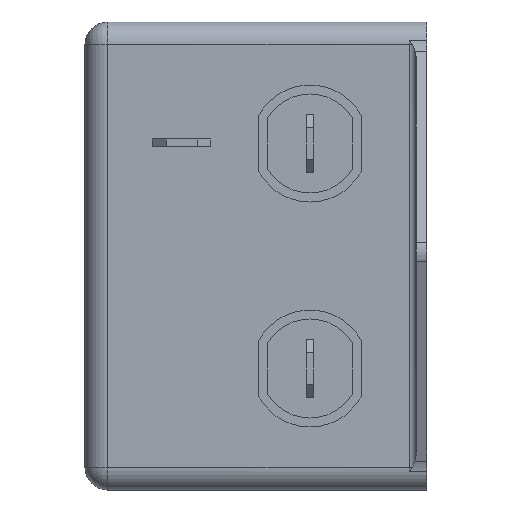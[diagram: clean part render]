
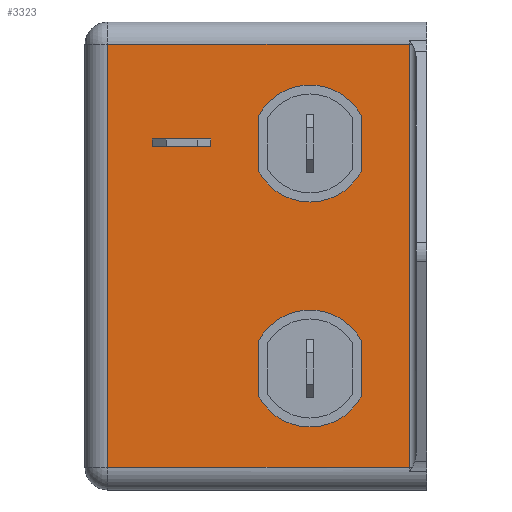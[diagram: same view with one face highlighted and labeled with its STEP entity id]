
A CAD part, left-side view. The second image highlights one B-rep face of the part: STEP entity #3323.
In plain terms, the highlighted planar face has unit normal (-1, 0, 0).
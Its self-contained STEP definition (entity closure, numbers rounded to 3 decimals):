
#63 = VECTOR ( 'NONE', #280, 1000. ) ;
#80 = VERTEX_POINT ( 'NONE', #2714 ) ;
#95 = CARTESIAN_POINT ( 'NONE',  ( -31.5, 18.75, -9.469 ) ) ;
#114 = CARTESIAN_POINT ( 'NONE',  ( -31.5, 24., 13. ) ) ;
#127 = AXIS2_PLACEMENT_3D ( 'NONE', #4027, #2755, #3404 ) ;
#211 = VERTEX_POINT ( 'NONE', #1293 ) ;
#228 = VECTOR ( 'NONE', #2777, 1000. ) ;
#230 = VERTEX_POINT ( 'NONE', #2356 ) ;
#259 = DIRECTION ( 'NONE',  ( -1., 0., 0. ) ) ;
#268 = PLANE ( 'NONE',  #3071 ) ;
#270 = VERTEX_POINT ( 'NONE', #3165 ) ;
#272 = LINE ( 'NONE', #3309, #4073 ) ;
#280 = DIRECTION ( 'NONE',  ( 0., -1., 0. ) ) ;
#333 = VERTEX_POINT ( 'NONE', #114 ) ;
#345 = EDGE_CURVE ( 'NONE', #3749, #80, #3128, .T. ) ;
#362 = CARTESIAN_POINT ( 'NONE',  ( -31.5, 13., -12.5 ) ) ;
#364 = VERTEX_POINT ( 'NONE', #1796 ) ;
#366 = LINE ( 'NONE', #1007, #3283 ) ;
#368 = DIRECTION ( 'NONE',  ( 0., -1., 0. ) ) ;
#381 = AXIS2_PLACEMENT_3D ( 'NONE', #4180, #2095, #1133 ) ;
#431 = DIRECTION ( 'NONE',  ( 0., 1., 0. ) ) ;
#452 = VECTOR ( 'NONE', #1237, 1000. ) ;
#457 = ORIENTED_EDGE ( 'NONE', *, *, #3909, .F. ) ;
#519 = CIRCLE ( 'NONE', #1449, 6.5 ) ;
#530 = LINE ( 'NONE', #1876, #452 ) ;
#531 = EDGE_CURVE ( 'NONE', #4099, #904, #272, .T. ) ;
#548 = EDGE_CURVE ( 'NONE', #1761, #1819, #366, .T. ) ;
#561 = DIRECTION ( 'NONE',  ( -1., 0., 0. ) ) ;
#605 = AXIS2_PLACEMENT_3D ( 'NONE', #1701, #259, #4390 ) ;
#624 = DIRECTION ( 'NONE',  ( 1., 0., 0. ) ) ;
#645 = ORIENTED_EDGE ( 'NONE', *, *, #2315, .T. ) ;
#768 = CARTESIAN_POINT ( 'NONE',  ( -31.5, 18.75, 15.531 ) ) ;
#821 = DIRECTION ( 'NONE',  ( 0., 0., 1. ) ) ;
#839 = AXIS2_PLACEMENT_3D ( 'NONE', #2570, #561, #1903 ) ;
#890 = CARTESIAN_POINT ( 'NONE',  ( -31.5, 35.5, -23.5 ) ) ;
#904 = VERTEX_POINT ( 'NONE', #2342 ) ;
#912 = FACE_BOUND ( 'NONE', #1585, .T. ) ;
#921 = LINE ( 'NONE', #3618, #1932 ) ;
#937 = LINE ( 'NONE', #2962, #2416 ) ;
#988 = AXIS2_PLACEMENT_3D ( 'NONE', #362, #1708, #4090 ) ;
#1007 = CARTESIAN_POINT ( 'NONE',  ( -31.5, 1.95, -23.5 ) ) ;
#1061 = ORIENTED_EDGE ( 'NONE', *, *, #548, .T. ) ;
#1092 = CARTESIAN_POINT ( 'NONE',  ( -31.5, 1.95, -23.5 ) ) ;
#1099 = CARTESIAN_POINT ( 'NONE',  ( -31.5, 24., 12.2 ) ) ;
#1101 = VERTEX_POINT ( 'NONE', #3735 ) ;
#1119 = EDGE_CURVE ( 'NONE', #1101, #1747, #937, .T. ) ;
#1133 = DIRECTION ( 'NONE',  ( 0., 0., 1. ) ) ;
#1184 = CARTESIAN_POINT ( 'NONE',  ( -31.5, 18.75, -9.469 ) ) ;
#1211 = CARTESIAN_POINT ( 'NONE',  ( -31.5, 38., 26. ) ) ;
#1237 = DIRECTION ( 'NONE',  ( 0., 0., -1. ) ) ;
#1260 = VERTEX_POINT ( 'NONE', #1732 ) ;
#1279 = DIRECTION ( 'NONE',  ( 0., 1., 0. ) ) ;
#1293 = CARTESIAN_POINT ( 'NONE',  ( -31.5, 30.5, 12.2 ) ) ;
#1296 = ORIENTED_EDGE ( 'NONE', *, *, #3483, .F. ) ;
#1449 = AXIS2_PLACEMENT_3D ( 'NONE', #3948, #3545, #821 ) ;
#1450 = DIRECTION ( 'NONE',  ( 0., 0., -1. ) ) ;
#1452 = LINE ( 'NONE', #1099, #2552 ) ;
#1453 = VECTOR ( 'NONE', #3803, 1000. ) ;
#1489 = DIRECTION ( 'NONE',  ( 0., 0., 1. ) ) ;
#1585 = EDGE_LOOP ( 'NONE', ( #3510, #3341, #2769, #3808 ) ) ;
#1642 = EDGE_LOOP ( 'NONE', ( #457, #4280, #1296, #2518, #3342 ) ) ;
#1701 = CARTESIAN_POINT ( 'NONE',  ( -31.5, 13., 12.5 ) ) ;
#1708 = DIRECTION ( 'NONE',  ( -1., 0., 0. ) ) ;
#1724 = ORIENTED_EDGE ( 'NONE', *, *, #3923, .F. ) ;
#1732 = CARTESIAN_POINT ( 'NONE',  ( -31.5, 13., -19. ) ) ;
#1747 = VERTEX_POINT ( 'NONE', #2065 ) ;
#1761 = VERTEX_POINT ( 'NONE', #1092 ) ;
#1764 = ORIENTED_EDGE ( 'NONE', *, *, #3298, .T. ) ;
#1796 = CARTESIAN_POINT ( 'NONE',  ( -31.5, 13., 6. ) ) ;
#1819 = VERTEX_POINT ( 'NONE', #2538 ) ;
#1876 = CARTESIAN_POINT ( 'NONE',  ( -31.5, 30.5, 13. ) ) ;
#1903 = DIRECTION ( 'NONE',  ( 0., 0., 1. ) ) ;
#1925 = DIRECTION ( 'NONE',  ( 0., 1., 0. ) ) ;
#1932 = VECTOR ( 'NONE', #1925, 1000. ) ;
#1969 = CIRCLE ( 'NONE', #127, 6.5 ) ;
#2041 = CIRCLE ( 'NONE', #988, 6.5 ) ;
#2065 = CARTESIAN_POINT ( 'NONE',  ( -31.5, 7.25, -9.469 ) ) ;
#2095 = DIRECTION ( 'NONE',  ( -1., 0., 0. ) ) ;
#2130 = LINE ( 'NONE', #2167, #228 ) ;
#2139 = ORIENTED_EDGE ( 'NONE', *, *, #4277, .F. ) ;
#2148 = CARTESIAN_POINT ( 'NONE',  ( -31.5, 30.5, 13. ) ) ;
#2167 = CARTESIAN_POINT ( 'NONE',  ( -31.5, 35.5, -23.5 ) ) ;
#2174 = ORIENTED_EDGE ( 'NONE', *, *, #4095, .F. ) ;
#2248 = VERTEX_POINT ( 'NONE', #3579 ) ;
#2254 = FACE_OUTER_BOUND ( 'NONE', #3199, .T. ) ;
#2315 = EDGE_CURVE ( 'NONE', #2976, #1761, #3554, .T. ) ;
#2342 = CARTESIAN_POINT ( 'NONE',  ( -31.5, 18.75, 9.469 ) ) ;
#2356 = CARTESIAN_POINT ( 'NONE',  ( -31.5, 35.5, 23.5 ) ) ;
#2358 = ORIENTED_EDGE ( 'NONE', *, *, #531, .F. ) ;
#2398 = CARTESIAN_POINT ( 'NONE',  ( -31.5, 30.5, 12.2 ) ) ;
#2416 = VECTOR ( 'NONE', #4025, 1000. ) ;
#2439 = CARTESIAN_POINT ( 'NONE',  ( -31.5, 7.25, 9.469 ) ) ;
#2491 = EDGE_CURVE ( 'NONE', #2248, #333, #1452, .T. ) ;
#2518 = ORIENTED_EDGE ( 'NONE', *, *, #2975, .F. ) ;
#2526 = EDGE_CURVE ( 'NONE', #230, #2976, #2130, .T. ) ;
#2538 = CARTESIAN_POINT ( 'NONE',  ( -31.5, 1.95, 23.5 ) ) ;
#2551 = EDGE_CURVE ( 'NONE', #270, #4099, #3781, .T. ) ;
#2552 = VECTOR ( 'NONE', #1489, 1000. ) ;
#2570 = CARTESIAN_POINT ( 'NONE',  ( -31.5, 13., -12.5 ) ) ;
#2580 = VERTEX_POINT ( 'NONE', #2148 ) ;
#2591 = EDGE_CURVE ( 'NONE', #333, #2580, #4122, .T. ) ;
#2605 = CIRCLE ( 'NONE', #839, 6.5 ) ;
#2667 = LINE ( 'NONE', #2398, #2846 ) ;
#2714 = CARTESIAN_POINT ( 'NONE',  ( -31.5, 18.75, -15.531 ) ) ;
#2735 = DIRECTION ( 'NONE',  ( 0., 0., 1. ) ) ;
#2755 = DIRECTION ( 'NONE',  ( -1., 0., 0. ) ) ;
#2762 = EDGE_CURVE ( 'NONE', #211, #2248, #2667, .T. ) ;
#2769 = ORIENTED_EDGE ( 'NONE', *, *, #2591, .F. ) ;
#2777 = DIRECTION ( 'NONE',  ( 0., 0., -1. ) ) ;
#2781 = ORIENTED_EDGE ( 'NONE', *, *, #2526, .T. ) ;
#2793 = CARTESIAN_POINT ( 'NONE',  ( -31.5, 24., 13. ) ) ;
#2846 = VECTOR ( 'NONE', #368, 1000. ) ;
#2905 = EDGE_LOOP ( 'NONE', ( #3417, #2174, #1724, #2139, #2358 ) ) ;
#2962 = CARTESIAN_POINT ( 'NONE',  ( -31.5, 7.25, -15.531 ) ) ;
#2975 = EDGE_CURVE ( 'NONE', #80, #1260, #519, .T. ) ;
#2976 = VERTEX_POINT ( 'NONE', #890 ) ;
#3036 = DIRECTION ( 'NONE',  ( 0., 0., -1. ) ) ;
#3059 = EDGE_CURVE ( 'NONE', #2580, #211, #530, .T. ) ;
#3071 = AXIS2_PLACEMENT_3D ( 'NONE', #1211, #624, #1279 ) ;
#3128 = LINE ( 'NONE', #95, #3135 ) ;
#3135 = VECTOR ( 'NONE', #1450, 1000. ) ;
#3144 = CIRCLE ( 'NONE', #605, 6.5 ) ;
#3165 = CARTESIAN_POINT ( 'NONE',  ( -31.5, 7.25, 15.531 ) ) ;
#3199 = EDGE_LOOP ( 'NONE', ( #645, #1061, #1764, #2781 ) ) ;
#3283 = VECTOR ( 'NONE', #2735, 1000. ) ;
#3298 = EDGE_CURVE ( 'NONE', #1819, #230, #921, .T. ) ;
#3309 = CARTESIAN_POINT ( 'NONE',  ( -31.5, 18.75, 15.531 ) ) ;
#3315 = CARTESIAN_POINT ( 'NONE',  ( -31.5, 35.5, -23.5 ) ) ;
#3323 = ADVANCED_FACE ( 'NONE', ( #4306, #912, #3566, #2254 ), #268, .F. ) ;
#3341 = ORIENTED_EDGE ( 'NONE', *, *, #3059, .F. ) ;
#3342 = ORIENTED_EDGE ( 'NONE', *, *, #345, .F. ) ;
#3404 = DIRECTION ( 'NONE',  ( 0., 0., 1. ) ) ;
#3417 = ORIENTED_EDGE ( 'NONE', *, *, #2551, .F. ) ;
#3483 = EDGE_CURVE ( 'NONE', #1260, #1101, #2041, .T. ) ;
#3510 = ORIENTED_EDGE ( 'NONE', *, *, #2762, .F. ) ;
#3545 = DIRECTION ( 'NONE',  ( -1., 0., 0. ) ) ;
#3554 = LINE ( 'NONE', #3315, #63 ) ;
#3566 = FACE_BOUND ( 'NONE', #1642, .T. ) ;
#3579 = CARTESIAN_POINT ( 'NONE',  ( -31.5, 24., 12.2 ) ) ;
#3618 = CARTESIAN_POINT ( 'NONE',  ( -31.5, 35.5, 23.5 ) ) ;
#3735 = CARTESIAN_POINT ( 'NONE',  ( -31.5, 7.25, -15.531 ) ) ;
#3747 = CARTESIAN_POINT ( 'NONE',  ( -31.5, 7.25, 9.469 ) ) ;
#3749 = VERTEX_POINT ( 'NONE', #1184 ) ;
#3781 = CIRCLE ( 'NONE', #381, 6.5 ) ;
#3803 = DIRECTION ( 'NONE',  ( 0., 0., 1. ) ) ;
#3808 = ORIENTED_EDGE ( 'NONE', *, *, #2491, .F. ) ;
#3909 = EDGE_CURVE ( 'NONE', #1747, #3749, #2605, .T. ) ;
#3923 = EDGE_CURVE ( 'NONE', #364, #4205, #1969, .T. ) ;
#3948 = CARTESIAN_POINT ( 'NONE',  ( -31.5, 13., -12.5 ) ) ;
#4025 = DIRECTION ( 'NONE',  ( 0., 0., 1. ) ) ;
#4027 = CARTESIAN_POINT ( 'NONE',  ( -31.5, 13., 12.5 ) ) ;
#4073 = VECTOR ( 'NONE', #3036, 1000. ) ;
#4090 = DIRECTION ( 'NONE',  ( 0., 0., 1. ) ) ;
#4095 = EDGE_CURVE ( 'NONE', #4205, #270, #4176, .T. ) ;
#4099 = VERTEX_POINT ( 'NONE', #768 ) ;
#4122 = LINE ( 'NONE', #2793, #4346 ) ;
#4176 = LINE ( 'NONE', #2439, #1453 ) ;
#4180 = CARTESIAN_POINT ( 'NONE',  ( -31.5, 13., 12.5 ) ) ;
#4205 = VERTEX_POINT ( 'NONE', #3747 ) ;
#4277 = EDGE_CURVE ( 'NONE', #904, #364, #3144, .T. ) ;
#4280 = ORIENTED_EDGE ( 'NONE', *, *, #1119, .F. ) ;
#4306 = FACE_BOUND ( 'NONE', #2905, .T. ) ;
#4346 = VECTOR ( 'NONE', #431, 1000. ) ;
#4390 = DIRECTION ( 'NONE',  ( 0., 0., 1. ) ) ;
